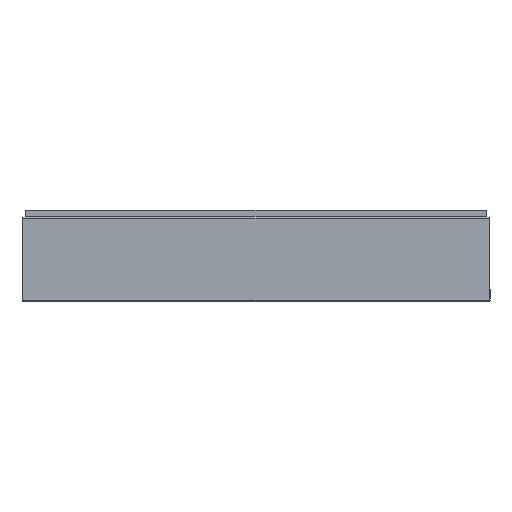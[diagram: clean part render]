
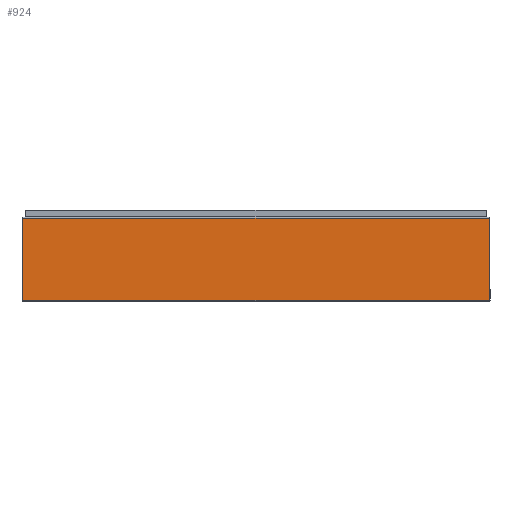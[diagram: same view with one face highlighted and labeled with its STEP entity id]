
A CAD part, front view. The second image highlights one B-rep face of the part: STEP entity #924.
In plain terms, the highlighted planar face has unit normal (0, -1, 0).
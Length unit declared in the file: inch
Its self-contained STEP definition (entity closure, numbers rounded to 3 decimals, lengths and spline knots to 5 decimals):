
#122 = ORIENTED_EDGE ( 'NONE', *, *, #7615, .T. ) ;
#123 = ORIENTED_EDGE ( 'NONE', *, *, #7628, .F. ) ;
#124 = ORIENTED_EDGE ( 'NONE', *, *, #7619, .F. ) ;
#125 = ORIENTED_EDGE ( 'NONE', *, *, #7633, .T. ) ;
#924 = ADVANCED_FACE ( 'NONE', ( #2277 ), #6293, .F. ) ;
#1300 = EDGE_LOOP ( 'NONE', ( #122, #123, #124, #125 ) ) ;
#2277 = FACE_OUTER_BOUND ( 'NONE', #1300, .T. ) ;
#4022 = CARTESIAN_POINT ( 'NONE',  ( 30.22379, -9.843, 10.731 ) ) ;
#4027 = DIRECTION ( 'NONE',  ( -1., 0., 0. ) ) ;
#4028 = CARTESIAN_POINT ( 'NONE',  ( -30.1445, -9.843, 0.152 ) ) ;
#4043 = DIRECTION ( 'NONE',  ( -1., 0., 0. ) ) ;
#4070 = CARTESIAN_POINT ( 'NONE',  ( -30.22379, -9.843, 0.152 ) ) ;
#4071 = DIRECTION ( 'NONE',  ( 0., 0., 1. ) ) ;
#4088 = CARTESIAN_POINT ( 'NONE',  ( 30.22379, -9.843, 0.152 ) ) ;
#4089 = DIRECTION ( 'NONE',  ( 0., 0., 1. ) ) ;
#4357 = CARTESIAN_POINT ( 'NONE',  ( -30.22379, -9.843, 0.152 ) ) ;
#4360 = CARTESIAN_POINT ( 'NONE',  ( -30.22379, -9.843, 10.731 ) ) ;
#4365 = CARTESIAN_POINT ( 'NONE',  ( 30.22379, -9.843, 0.152 ) ) ;
#4440 = CARTESIAN_POINT ( 'NONE',  ( 30.22379, -9.843, 10.731 ) ) ;
#4787 = LINE ( 'NONE', #4022, #4798 ) ;
#4798 = VECTOR ( 'NONE', #4027, 39.37008 ) ;
#4800 = LINE ( 'NONE', #4028, #4804 ) ;
#4804 = VECTOR ( 'NONE', #4043, 39.37008 ) ;
#4807 = LINE ( 'NONE', #4070, #4814 ) ;
#4814 = VECTOR ( 'NONE', #4071, 39.37008 ) ;
#4826 = LINE ( 'NONE', #4088, #4827 ) ;
#4827 = VECTOR ( 'NONE', #4089, 39.37008 ) ;
#6286 = CARTESIAN_POINT ( 'NONE',  ( -30.1445, -9.843, 0.072 ) ) ;
#6293 = PLANE ( 'NONE',  #7857 ) ;
#6298 = DIRECTION ( 'NONE',  ( 0., 1., 0. ) ) ;
#6299 = DIRECTION ( 'NONE',  ( 0., 0., 1. ) ) ;
#7615 = EDGE_CURVE ( 'NONE', #8154, #8074, #4787, .T. ) ;
#7619 = EDGE_CURVE ( 'NONE', #8079, #8071, #4800, .T. ) ;
#7628 = EDGE_CURVE ( 'NONE', #8071, #8074, #4807, .T. ) ;
#7633 = EDGE_CURVE ( 'NONE', #8079, #8154, #4826, .T. ) ;
#7857 = AXIS2_PLACEMENT_3D ( 'NONE', #6286, #6298, #6299 ) ;
#8071 = VERTEX_POINT ( 'NONE', #4357 ) ;
#8074 = VERTEX_POINT ( 'NONE', #4360 ) ;
#8079 = VERTEX_POINT ( 'NONE', #4365 ) ;
#8154 = VERTEX_POINT ( 'NONE', #4440 ) ;
